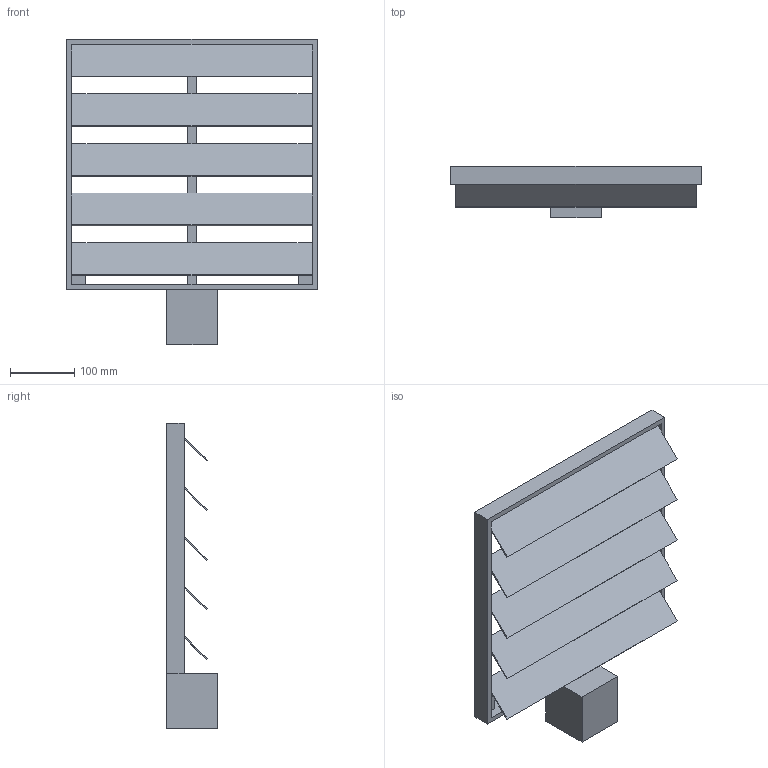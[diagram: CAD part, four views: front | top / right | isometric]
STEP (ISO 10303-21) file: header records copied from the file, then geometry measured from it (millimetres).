
FILE_DESCRIPTION(/* description */ (''),/* implementation_level */ '2;1');
FILE_NAME(/* name */ 'Z:\Output\EVK_355-00777-001.stp',/* time_stamp */ '2020-05-11T12:19:46+02:00',/* author */ ('pareshmistry'),/* organization */ (''),/* preprocessor_version */ 'ST-DEVELOPER v17.2',/* originating_system */ 'Autodesk Inventor 2019',/* authorisation */ '');
FILE_SCHEMA (('AUTOMOTIVE_DESIGN { 1 0 10303 214 3 1 1 }'));
Length unit declared in the file: millimetre
Products named in the file (1): EVK-1
Bounding box: 390 x 80 x 476 mm (x, y, z)
Volume: 1248433.9 mm3; surface area: 440710.5 mm2
Topology: 1 solids, 1 shells, 82 faces, 265 edges, 164 vertices
Faces by surface type: plane 74, cylinder 8
Full cylindrical faces by diameter (mm): 5.3 x4
Entity records: 2926 total; most frequent: ORIENTED_EDGE 530, CARTESIAN_POINT 512, DIRECTION 447, EDGE_CURVE 265, LINE 249, VECTOR 249, VERTEX_POINT 164, AXIS2_PLACEMENT_3D 99
